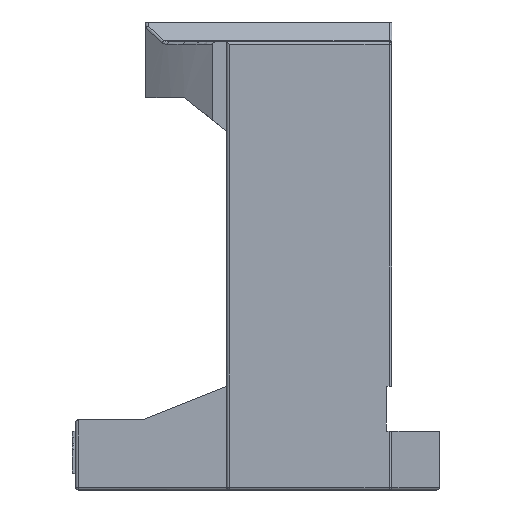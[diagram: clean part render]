
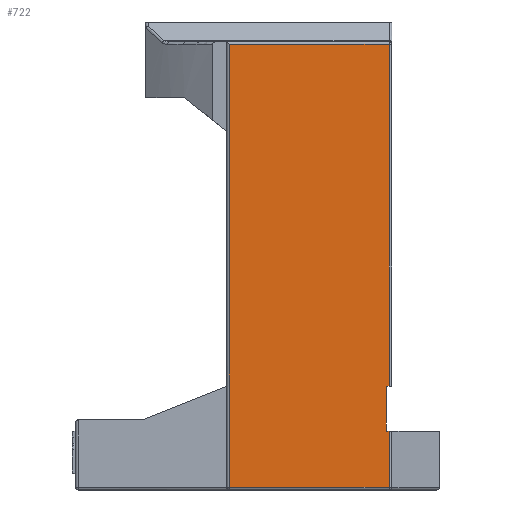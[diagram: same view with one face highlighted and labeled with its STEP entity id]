
A CAD part, left-side view. The second image highlights one B-rep face of the part: STEP entity #722.
In plain terms, the highlighted planar face has unit normal (-1, 0, 0).
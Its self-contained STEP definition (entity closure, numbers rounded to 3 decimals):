
#267=FACE_OUTER_BOUND('',#1805,.T.);
#722=ADVANCED_FACE('',(#267),#941,.F.);
#941=PLANE('',#4434);
#1105=LINE('',#5939,#1359);
#1106=LINE('',#5942,#1360);
#1107=LINE('',#5944,#1361);
#1108=LINE('',#5946,#1362);
#1109=LINE('',#5948,#1363);
#1110=LINE('',#5950,#1364);
#1111=LINE('',#5952,#1365);
#1112=LINE('',#5954,#1366);
#1359=VECTOR('',#4916,1.);
#1360=VECTOR('',#4917,1.);
#1361=VECTOR('',#4918,1.);
#1362=VECTOR('',#4919,1.);
#1363=VECTOR('',#4920,1.);
#1364=VECTOR('',#4921,1.);
#1365=VECTOR('',#4922,1.);
#1366=VECTOR('',#4923,1.);
#1805=EDGE_LOOP('',(#2211,#2212,#2213,#2214,#2215,#2216,#2217,#2218));
#2211=ORIENTED_EDGE('',*,*,#3759,.T.);
#2212=ORIENTED_EDGE('',*,*,#3760,.T.);
#2213=ORIENTED_EDGE('',*,*,#3761,.T.);
#2214=ORIENTED_EDGE('',*,*,#3762,.T.);
#2215=ORIENTED_EDGE('',*,*,#3763,.T.);
#2216=ORIENTED_EDGE('',*,*,#3764,.T.);
#2217=ORIENTED_EDGE('',*,*,#3765,.T.);
#2218=ORIENTED_EDGE('',*,*,#3766,.T.);
#3350=VERTEX_POINT('',#5940);
#3351=VERTEX_POINT('',#5941);
#3352=VERTEX_POINT('',#5943);
#3353=VERTEX_POINT('',#5945);
#3354=VERTEX_POINT('',#5947);
#3355=VERTEX_POINT('',#5949);
#3356=VERTEX_POINT('',#5951);
#3357=VERTEX_POINT('',#5953);
#3759=EDGE_CURVE('',#3350,#3351,#1105,.T.);
#3760=EDGE_CURVE('',#3351,#3352,#1106,.T.);
#3761=EDGE_CURVE('',#3352,#3353,#1107,.T.);
#3762=EDGE_CURVE('',#3353,#3354,#1108,.T.);
#3763=EDGE_CURVE('',#3354,#3355,#1109,.T.);
#3764=EDGE_CURVE('',#3355,#3356,#1110,.T.);
#3765=EDGE_CURVE('',#3356,#3357,#1111,.T.);
#3766=EDGE_CURVE('',#3357,#3350,#1112,.T.);
#4434=AXIS2_PLACEMENT_3D('',#5955,#4924,#4925);
#4916=DIRECTION('',(0.,0.,1.));
#4917=DIRECTION('',(0.,1.,0.));
#4918=DIRECTION('',(0.,0.,-1.));
#4919=DIRECTION('',(0.,-1.,0.));
#4920=DIRECTION('',(0.,0.,1.));
#4921=DIRECTION('',(0.,1.,0.));
#4922=DIRECTION('',(0.,0.,1.));
#4923=DIRECTION('',(0.,-1.,0.));
#4924=DIRECTION('',(1.,0.,0.));
#4925=DIRECTION('',(0.,-1.,0.));
#5939=CARTESIAN_POINT('',(-75.,-47.,25.));
#5940=CARTESIAN_POINT('',(-75.,-47.,37.));
#5941=CARTESIAN_POINT('',(-75.,-47.,159.));
#5942=CARTESIAN_POINT('',(-75.,72.5,159.));
#5943=CARTESIAN_POINT('',(-75.,10.,159.));
#5944=CARTESIAN_POINT('',(-75.,10.,25.));
#5945=CARTESIAN_POINT('',(-75.,10.,1.));
#5946=CARTESIAN_POINT('',(-75.,72.5,1.));
#5947=CARTESIAN_POINT('',(-75.,-47.,1.));
#5948=CARTESIAN_POINT('',(-75.,-47.,24.));
#5949=CARTESIAN_POINT('',(-75.,-47.,21.));
#5950=CARTESIAN_POINT('',(-75.,72.5,21.));
#5951=CARTESIAN_POINT('',(-75.,-46.,21.));
#5952=CARTESIAN_POINT('',(-75.,-46.,24.));
#5953=CARTESIAN_POINT('',(-75.,-46.,37.));
#5954=CARTESIAN_POINT('',(-75.,72.5,37.));
#5955=CARTESIAN_POINT('',(-75.,72.5,25.));
